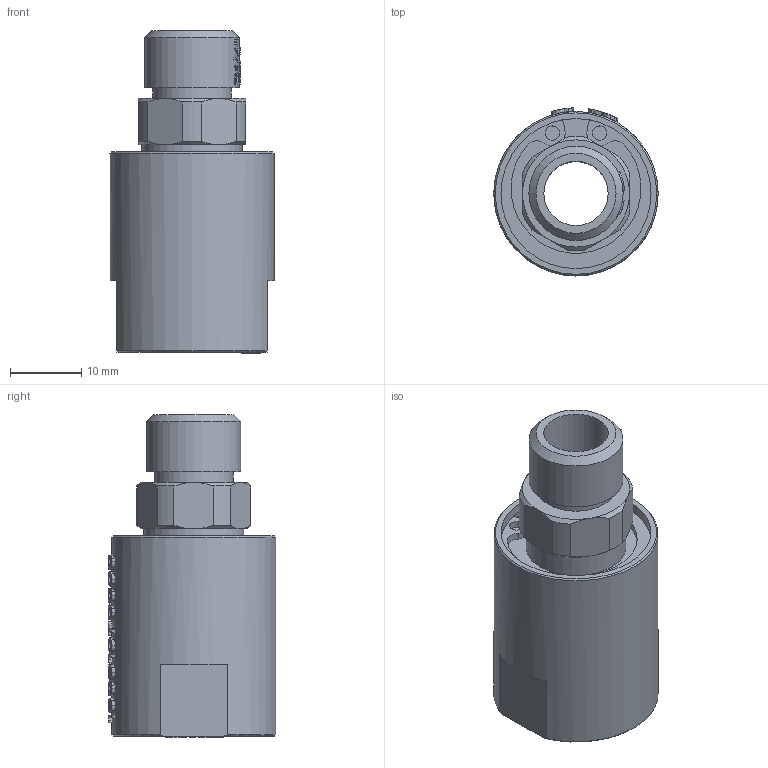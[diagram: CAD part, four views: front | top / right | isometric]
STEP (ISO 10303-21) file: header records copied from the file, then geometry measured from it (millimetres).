
FILE_DESCRIPTION(/* description */ (''),/* implementation_level */ '2;1');
FILE_NAME(/* name */ 'HQK0102(RH)-3D模型.stp',/* time_stamp */ '2025-07-08T15:16:18+08:00',/* author */ (''),/* organization */ (''),/* preprocessor_version */ 'ST-DEVELOPER v16.7',/* originating_system */ 'SIEMENS PLM Software NX 12.0',/* authorisation */ '');
FILE_SCHEMA (('AUTOMOTIVE_DESIGN { 1 0 10303 214 3 1 1 1 }'));
Length unit declared in the file: millimetre
Products named in the file (1): Admi1E18C0B72306
Bounding box: 23 x 23.5 x 45.2 mm (x, y, z)
Volume: 10520 mm3; surface area: 5449.9 mm2
Topology: 1 solids, 1 shells, 864 faces, 2360 edges, 1569 vertices
Faces by surface type: extrusion 428, plane 332, cylinder 44, bspline 44, cone 16
Full cylindrical faces by diameter (mm): 2 x2, 9 x1, 9.5 x1, 11 x1, 11.5 x1, 13.2 x1, 14 x1, 21 x1, 22 x1, 23 x1
Entity records: 34690 total; most frequent: CARTESIAN_POINT 16583, ORIENTED_EDGE 4684, EDGE_CURVE 2342, B_SPLINE_CURVE_WITH_KNOTS 2234, DIRECTION 1816, VERTEX_POINT 1564, EDGE_LOOP 950, ADVANCED_FACE 864
